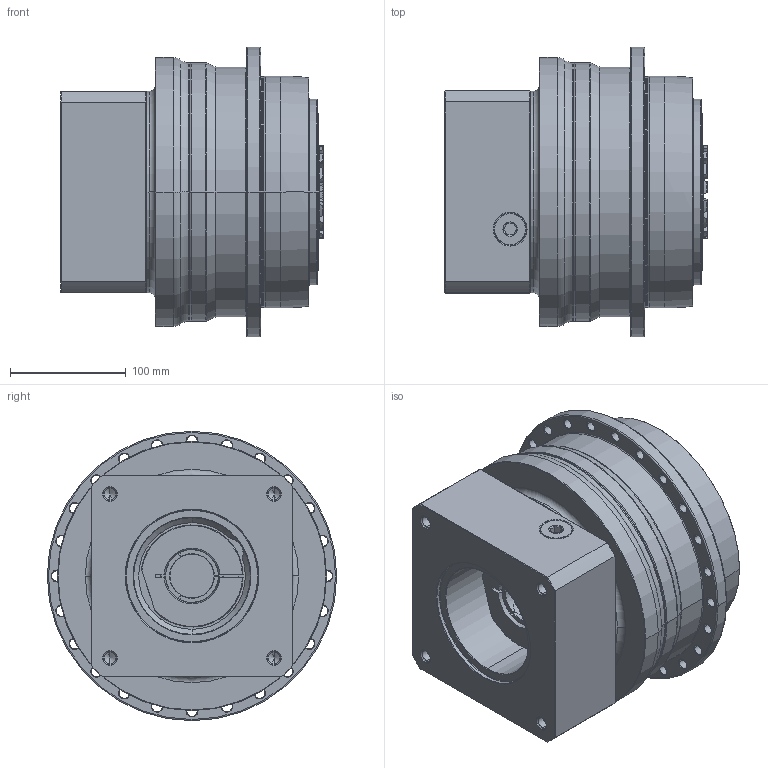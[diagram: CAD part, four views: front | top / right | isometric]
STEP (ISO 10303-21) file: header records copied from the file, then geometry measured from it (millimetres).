
FILE_DESCRIPTION((''),'2;1');
FILE_NAME('APC200_1ST_38-P0409910201_ASM','2018-06-12T',('d01226'),(''),'PRO/ENGINEER BY PARAMETRIC TECHNOLOGY CORPORATION, 2008410','PRO/ENGINEER BY PARAMETRIC TECHNOLOGY CORPORATION, 2008410','');
FILE_SCHEMA(('CONFIG_CONTROL_DESIGN'));
Length unit declared in the file: millimetre
Products named in the file (9): P0278601003; P0359660103; P1318610201; P0503900012; P0912652001; P1211600001; P0409910201; 21711422019; APC200_1ST_38-P0409910201_ASM
Assembly tree (8 placements, depth 2):
  APC200_1ST_38-P0409910201_ASM
    P0278601003
    P0359660103
    P1318610201
    P0503900012
    P0912652001
    P1211600001
    P0409910201
    21711422019
Bounding box: 226.6 x 249.5 x 249.5 mm (x, y, z)
Volume: 7516517.4 mm3; surface area: 632073.5 mm2
Topology: 9 solids, 20 shells, 672 faces, 1610 edges, 979 vertices
Faces by surface type: cone 224, cylinder 212, plane 121, torus 101, bspline 14
Entity records: 24791 total; most frequent: CARTESIAN_POINT 8738, DIRECTION 3599, ORIENTED_EDGE 3142, EDGE_CURVE 1592, AXIS2_PLACEMENT_3D 1560, VERTEX_POINT 979, CIRCLE 875, EDGE_LOOP 775
